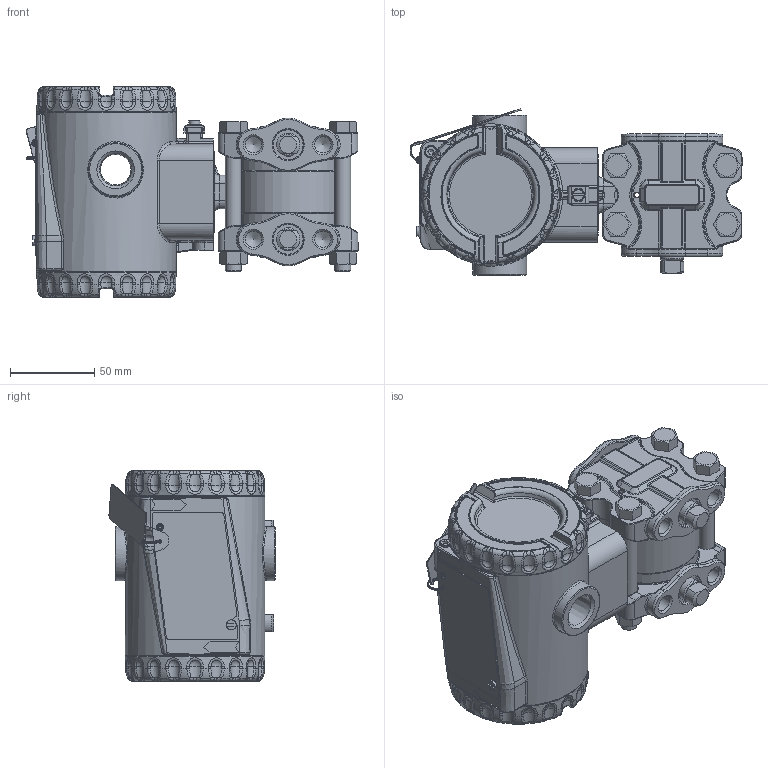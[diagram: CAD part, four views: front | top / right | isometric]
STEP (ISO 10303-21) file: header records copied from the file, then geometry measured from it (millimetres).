
FILE_DESCRIPTION(/* description */ (''),/* implementation_level */ '2;1');
FILE_NAME(/* name */ 'F:\Area\Desenvolvimento_2\Projects\Sensor\projetos\LD400-3d\dimensionais 3D clientes\LD400H4 1-4NPT sem purga.stp',/* time_stamp */ '2023-02-02T11:42:27-03:00',/* author */ ('inventor02'),/* organization */ (''),/* preprocessor_version */ 'ST-DEVELOPER v17',/* originating_system */ 'Autodesk Inventor 2019',/* authorisation */ '');
FILE_SCHEMA (('CONFIG_CONTROL_DESIGN'));
Products named in the file (28): LD400H4 1-4NPT sem purga; Carcaça 400 com tampas e plaqueta sem letras; 101-D-0845-05 carcaça LD400 sem letras; 101-B-3614-03-tampa 400 sem letras; Tampa visor 400 montada sem letras; 101-B-3612-05 tampa visor 400 sem letras; 101-A-6107; oring 2034; 00034775-0; WHW_250; DIN 915 - M6 x 10; Chapa aterramento externo; 201-A-1771-02 inserto terra recartilhado; AS 1969 - ST4,2; ISO 1207 - M4 x 8; ANSI B18.3.1M - M4x0,7 x 8; Subconjunto plaqueta 400; plaqueta 400 em branco; Parafuso da Plaqueta; Rebite da Plaqueta; 096-A-0169-03; 101-A-0502-01; diferencial FX4 sem adaptador sem purga; involucro fx4 apos a usinagem final; bujao 1-4NPT; flange diferencial std sem purga; Paraf. 3-8 x 16 UNC; Porca 3-8 x 16 UNC
Assembly tree (36 placements, depth 4):
  LD400H4 1-4NPT sem purga
    Carcaça 400 com tampas e plaqueta sem letras
      101-D-0845-05 carcaça LD400 sem letras
      101-B-3614-03-tampa 400 sem letras
      Tampa visor 400 montada sem letras
        101-B-3612-05 tampa visor 400 sem letras
        101-A-6107
        oring 2034
        00034775-0
        WHW_250
      DIN 915 - M6 x 10
      Chapa aterramento externo
      201-A-1771-02 inserto terra recartilhado
      AS 1969 - ST4,2
      ISO 1207 - M4 x 8
      ANSI B18.3.1M - M4x0,7 x 8  x2
      Subconjunto plaqueta 400
        plaqueta 400 em branco
        Parafuso da Plaqueta
        Rebite da Plaqueta
        096-A-0169-03
        101-A-0502-01
    diferencial FX4 sem adaptador sem purga
      involucro fx4 apos a usinagem final
      flange diferencial std sem purga  x2
      bujao 1-4NPT  x2
      Paraf. 3-8 x 16 UNC  x4
      Porca 3-8 x 16 UNC  x4
Bounding box: 197.25 x 98.64 x 125 mm (x, y, z)
Volume: 614661.3 mm3; surface area: 233953.3 mm2
Topology: 32 solids, 32 shells, 2581 faces, 6231 edges, 3703 vertices
Faces by surface type: plane 645, cylinder 623, bspline 611, torus 438, cone 193, sphere 71
Full cylindrical faces by diameter (mm): 2 x2, 2.1 x1, 2.2 x1, 2.459 x3, 2.7 x1, 3 x3, 3.242 x3, 3.571 x1, 4 x4, 4.3 x2, 4.4 x1, 4.917 x1, 5.5 x4, 6 x2, 6.1 x2, 6.2 x1, 7 x2, 7.6 x2, 7.798 x4, 9.525 x4, 9.728 x8, 10.5 x8, 10.719 x4, 13.8 x2, 14 x1, 18.3 x2, 18.5 x4, 32 x2, 32.1 x2, 34.6 x2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
Entity records: 79672 total; most frequent: CARTESIAN_POINT 31350, ORIENTED_EDGE 10074, DIRECTION 9794, EDGE_CURVE 5037, AXIS2_PLACEMENT_3D 4136, VERTEX_POINT 3019, CIRCLE 2366, EDGE_LOOP 2184
